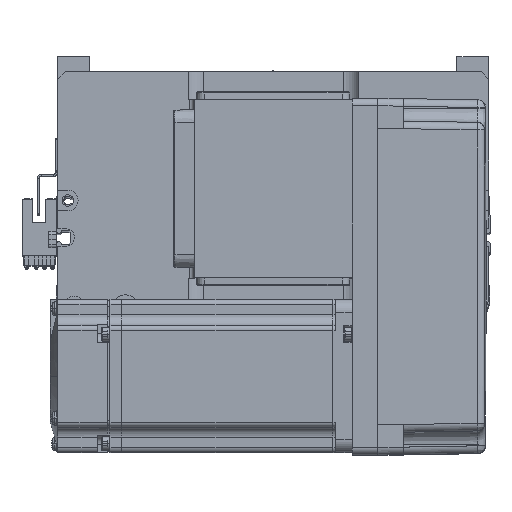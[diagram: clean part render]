
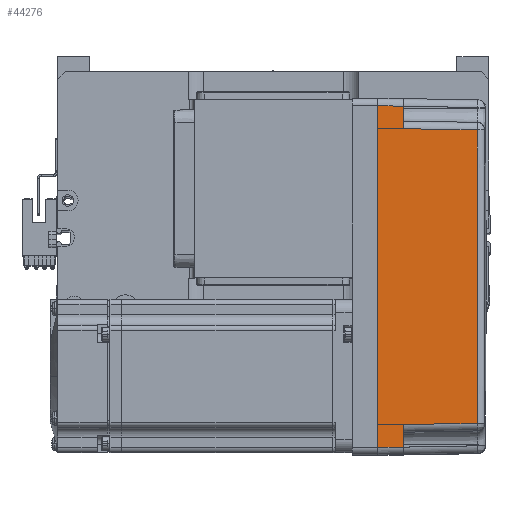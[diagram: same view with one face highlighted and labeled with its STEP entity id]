
A CAD part, top view. The second image highlights one B-rep face of the part: STEP entity #44276.
In plain terms, the highlighted planar face has unit normal (0.018, 0, 1) as drawn and (0, 1, 0.017) by its records, which use the part's own axes.
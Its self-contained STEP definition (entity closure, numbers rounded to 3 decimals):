
#1896 = CARTESIAN_POINT ( 'NONE',  ( -58., 35.825, 10. ) ) ;
#2292 = DIRECTION ( 'NONE',  ( 0.017, -0.017, 1. ) ) ;
#2353 = DIRECTION ( 'NONE',  ( 0.017, 0.017, -1. ) ) ;
#3581 = VERTEX_POINT ( 'NONE', #52872 ) ;
#5128 = VECTOR ( 'NONE', #17982, 1000. ) ;
#5706 = VERTEX_POINT ( 'NONE', #47784 ) ;
#6712 = VERTEX_POINT ( 'NONE', #23441 ) ;
#9539 = CARTESIAN_POINT ( 'NONE',  ( -58., 35.825, 10. ) ) ;
#9944 = FACE_OUTER_BOUND ( 'NONE', #23504, .T. ) ;
#11955 = CARTESIAN_POINT ( 'NONE',  ( 57.495, 35.32, 38.985 ) ) ;
#11999 = ORIENTED_EDGE ( 'NONE', *, *, #45695, .F. ) ;
#13219 = CARTESIAN_POINT ( 'NONE',  ( 57.495, 35.32, 38.985 ) ) ;
#13284 = EDGE_CURVE ( 'NONE', #34660, #5706, #48229, .T. ) ;
#13962 = DIRECTION ( 'NONE',  ( 0., -0.017, 1. ) ) ;
#14373 = B_SPLINE_CURVE_WITH_KNOTS ( 'NONE', 3,
 ( #30865, #49491, #35783, #11955 ),
 .UNSPECIFIED., .F., .F.,
 ( 4, 4 ),
 ( 0., 1. ),
 .UNSPECIFIED. ) ;
#16156 = LINE ( 'NONE', #48238, #22069 ) ;
#17470 = DIRECTION ( 'NONE',  ( 0.017, -0.017, 1. ) ) ;
#17982 = DIRECTION ( 'NONE',  ( 1., 0., 0. ) ) ;
#19541 = ORIENTED_EDGE ( 'NONE', *, *, #13284, .T. ) ;
#20790 = VECTOR ( 'NONE', #57128, 1000. ) ;
#21855 = EDGE_CURVE ( 'NONE', #43726, #42919, #16156, .T. ) ;
#22069 = VECTOR ( 'NONE', #58190, 1000. ) ;
#23119 = EDGE_CURVE ( 'NONE', #29268, #34660, #14373, .T. ) ;
#23441 = CARTESIAN_POINT ( 'NONE',  ( -67., 36., 0. ) ) ;
#23504 = EDGE_LOOP ( 'NONE', ( #33099, #36906, #57561, #33974, #19541, #42520, #54848, #11999 ) ) ;
#24162 = VECTOR ( 'NONE', #2292, 1000. ) ;
#27456 = EDGE_CURVE ( 'NONE', #41547, #3581, #54537, .T. ) ;
#29268 = VERTEX_POINT ( 'NONE', #45597 ) ;
#30865 = CARTESIAN_POINT ( 'NONE',  ( -57.495, 35.32, 38.985 ) ) ;
#32525 = LINE ( 'NONE', #40613, #42749 ) ;
#32553 = VECTOR ( 'NONE', #17470, 1000. ) ;
#32689 = DIRECTION ( 'NONE',  ( 0., 1., 0.017 ) ) ;
#33099 = ORIENTED_EDGE ( 'NONE', *, *, #35065, .T. ) ;
#33974 = ORIENTED_EDGE ( 'NONE', *, *, #23119, .T. ) ;
#34489 = LINE ( 'NONE', #56093, #5128 ) ;
#34660 = VERTEX_POINT ( 'NONE', #13219 ) ;
#35065 = EDGE_CURVE ( 'NONE', #6712, #43726, #50779, .T. ) ;
#35783 = CARTESIAN_POINT ( 'NONE',  ( 19.165, 35.316, 39.181 ) ) ;
#36906 = ORIENTED_EDGE ( 'NONE', *, *, #21855, .T. ) ;
#37170 = EDGE_CURVE ( 'NONE', #5706, #3581, #34489, .T. ) ;
#39564 = LINE ( 'NONE', #1896, #24162 ) ;
#40613 = CARTESIAN_POINT ( 'NONE',  ( 0., 36., 0. ) ) ;
#40816 = DIRECTION ( 'NONE',  ( 1., 0., 0. ) ) ;
#41547 = VERTEX_POINT ( 'NONE', #48147 ) ;
#42064 = CARTESIAN_POINT ( 'NONE',  ( 70., 36., 0. ) ) ;
#42520 = ORIENTED_EDGE ( 'NONE', *, *, #37170, .T. ) ;
#42749 = VECTOR ( 'NONE', #40816, 1000. ) ;
#42919 = VERTEX_POINT ( 'NONE', #9539 ) ;
#43034 = CARTESIAN_POINT ( 'NONE',  ( 67.001, 36.001, -0.052 ) ) ;
#43154 = EDGE_CURVE ( 'NONE', #42919, #29268, #39564, .T. ) ;
#43726 = VERTEX_POINT ( 'NONE', #53072 ) ;
#44276 = ADVANCED_FACE ( 'NONE', ( #9944 ), #60666, .T. ) ;
#45597 = CARTESIAN_POINT ( 'NONE',  ( -57.495, 35.32, 38.985 ) ) ;
#45695 = EDGE_CURVE ( 'NONE', #6712, #41547, #32525, .T. ) ;
#45837 = AXIS2_PLACEMENT_3D ( 'NONE', #42064, #32689, #13962 ) ;
#47784 = CARTESIAN_POINT ( 'NONE',  ( 58., 35.825, 10. ) ) ;
#48147 = CARTESIAN_POINT ( 'NONE',  ( 67., 36., 0. ) ) ;
#48229 = LINE ( 'NONE', #48908, #53302 ) ;
#48238 = CARTESIAN_POINT ( 'NONE',  ( 70., 35.825, 10. ) ) ;
#48908 = CARTESIAN_POINT ( 'NONE',  ( 57.495, 35.32, 38.985 ) ) ;
#49491 = CARTESIAN_POINT ( 'NONE',  ( -19.165, 35.316, 39.181 ) ) ;
#50779 = LINE ( 'NONE', #54962, #32553 ) ;
#52872 = CARTESIAN_POINT ( 'NONE',  ( 66.826, 35.825, 10. ) ) ;
#53072 = CARTESIAN_POINT ( 'NONE',  ( -66.826, 35.825, 10. ) ) ;
#53302 = VECTOR ( 'NONE', #2353, 1000. ) ;
#54537 = LINE ( 'NONE', #43034, #20790 ) ;
#54848 = ORIENTED_EDGE ( 'NONE', *, *, #27456, .F. ) ;
#54962 = CARTESIAN_POINT ( 'NONE',  ( -67., 36., 0. ) ) ;
#56093 = CARTESIAN_POINT ( 'NONE',  ( 70., 35.825, 10. ) ) ;
#57128 = DIRECTION ( 'NONE',  ( -0.017, -0.017, 1. ) ) ;
#57561 = ORIENTED_EDGE ( 'NONE', *, *, #43154, .T. ) ;
#58190 = DIRECTION ( 'NONE',  ( 1., 0., 0. ) ) ;
#60666 = PLANE ( 'NONE',  #45837 ) ;
